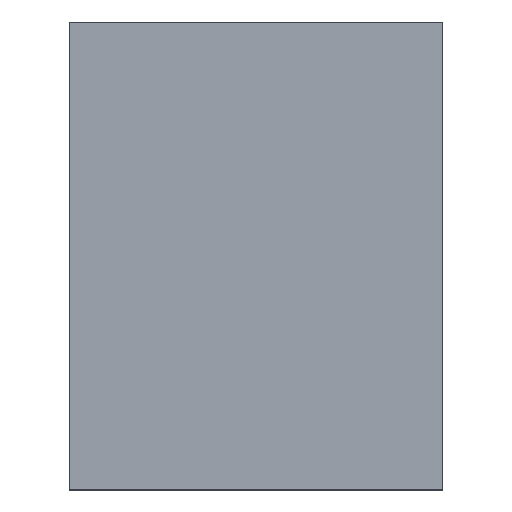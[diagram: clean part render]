
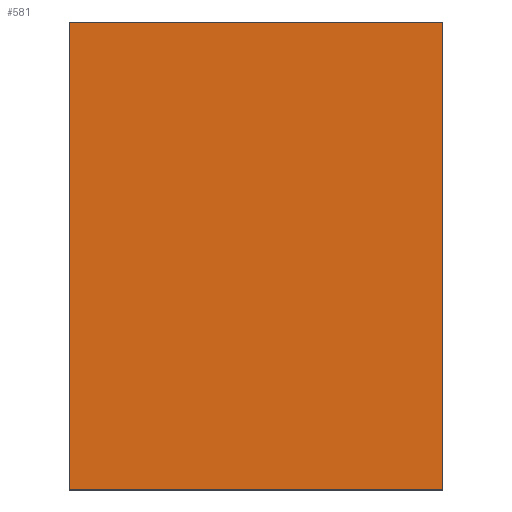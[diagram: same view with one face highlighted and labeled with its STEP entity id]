
A CAD part, top view. The second image highlights one B-rep face of the part: STEP entity #581.
In plain terms, the highlighted planar face has unit normal (0, 0, 1).
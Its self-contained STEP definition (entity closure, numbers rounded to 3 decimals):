
#89=FACE_OUTER_BOUND('',#122,.T.);
#122=EDGE_LOOP('',(#443,#444,#445,#446));
#161=LINE('',#889,#225);
#164=LINE('',#895,#228);
#174=LINE('',#912,#238);
#176=LINE('',#915,#240);
#225=VECTOR('',#709,10.);
#228=VECTOR('',#714,10.);
#238=VECTOR('',#726,10.);
#240=VECTOR('',#730,10.);
#289=VERTEX_POINT('',#886);
#290=VERTEX_POINT('',#888);
#292=VERTEX_POINT('',#894);
#298=VERTEX_POINT('',#910);
#337=EDGE_CURVE('',#289,#290,#161,.T.);
#340=EDGE_CURVE('',#290,#292,#164,.T.);
#350=EDGE_CURVE('',#298,#289,#174,.T.);
#352=EDGE_CURVE('',#292,#298,#176,.T.);
#443=ORIENTED_EDGE('',*,*,#350,.F.);
#444=ORIENTED_EDGE('',*,*,#352,.F.);
#445=ORIENTED_EDGE('',*,*,#340,.F.);
#446=ORIENTED_EDGE('',*,*,#337,.F.);
#552=PLANE('',#644);
#581=ADVANCED_FACE('',(#89),#552,.T.);
#644=AXIS2_PLACEMENT_3D('',#930,#744,#745);
#709=DIRECTION('',(0.,-1.,0.));
#714=DIRECTION('',(-1.,0.,0.));
#726=DIRECTION('',(1.,0.,0.));
#730=DIRECTION('',(0.,1.,0.));
#744=DIRECTION('center_axis',(0.,0.,1.));
#745=DIRECTION('ref_axis',(1.,0.,0.));
#886=CARTESIAN_POINT('',(1400.,2000.,1400.));
#888=CARTESIAN_POINT('',(1400.,-1000.,1400.));
#889=CARTESIAN_POINT('',(1400.,0.,1400.));
#894=CARTESIAN_POINT('',(-1000.,-1000.,1400.));
#895=CARTESIAN_POINT('',(0.,-1000.,1400.));
#910=CARTESIAN_POINT('',(-1000.,2000.,1400.));
#912=CARTESIAN_POINT('',(400.,2000.,1400.));
#915=CARTESIAN_POINT('',(-1000.,0.,1400.));
#930=CARTESIAN_POINT('Origin',(0.,0.,1400.));
